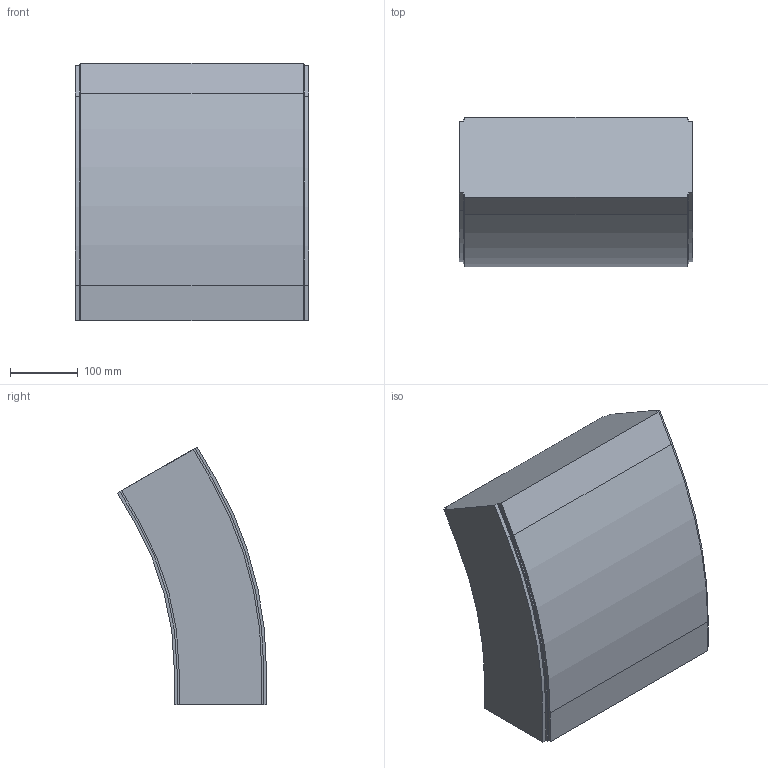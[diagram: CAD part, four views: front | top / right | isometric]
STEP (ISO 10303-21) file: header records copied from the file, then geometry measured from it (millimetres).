
FILE_DESCRIPTION (( 'STEP AP214' ), '1' );
FILE_NAME ('FS-MTC2-150-INOX verticaalbocht.350 30°.STEP', '2017-02-08T12:42:35', ( '' ), ( '' ), 'SwSTEP 2.0', 'SolidWorks 2016', '' );
FILE_SCHEMA (( 'AUTOMOTIVE_DESIGN' ));
Length unit declared in the file: millimetre
Products named in the file (1): FS-MTC2-150-INOX verticaalbocht.350 30°
Bounding box: 346 x 220.59 x 382.09 mm (x, y, z)
Volume: 17250795.3 mm3; surface area: 448022.6 mm2
Topology: 1 solids, 1 shells, 42 faces, 120 edges, 80 vertices
Faces by surface type: plane 32, cylinder 10
Entity records: 1398 total; most frequent: CARTESIAN_POINT 243, ORIENTED_EDGE 240, DIRECTION 226, EDGE_CURVE 120, LINE 100, VECTOR 100, VERTEX_POINT 80, AXIS2_PLACEMENT_3D 63
